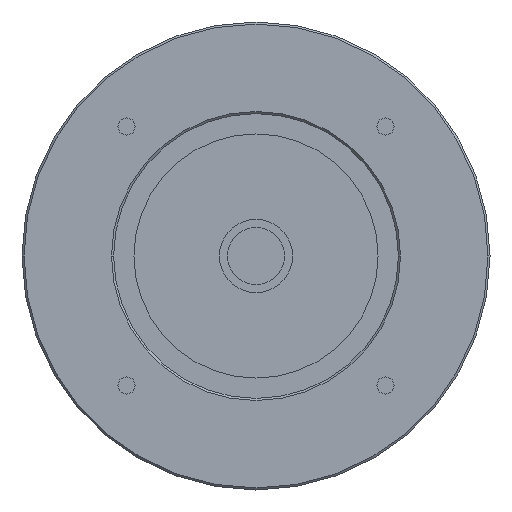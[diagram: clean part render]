
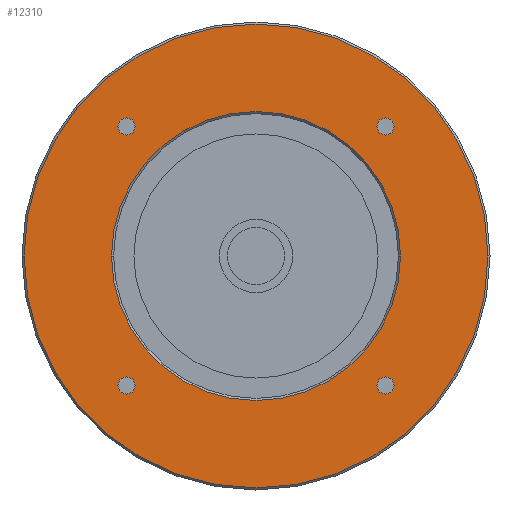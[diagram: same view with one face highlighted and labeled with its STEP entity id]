
A CAD part, left-side view. The second image highlights one B-rep face of the part: STEP entity #12310.
In plain terms, the highlighted planar face has unit normal (-1, 0, 0) as drawn and (0, 0, -1) by its records, which use the part's own axes.
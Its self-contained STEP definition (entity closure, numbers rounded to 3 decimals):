
#8820=CARTESIAN_POINT('',(31.82,-29.72,-45.));
#8830=VERTEX_POINT('',#8820);
#8880=CARTESIAN_POINT('',(31.82,-31.82,-45.));
#8890=DIRECTION('',(0.,0.,-1.));
#8900=DIRECTION('',(1.,0.,0.));
#8910=AXIS2_PLACEMENT_3D('',#8880,#8890,#8900);
#8920=CIRCLE('',#8910,2.1);
#8930=CARTESIAN_POINT('',(31.82,-33.92,-45.));
#8940=VERTEX_POINT('',#8930);
#8950=EDGE_CURVE('',#8940,#8830,#8920,.T.);
#9240=CARTESIAN_POINT('',(31.82,33.92,-45.));
#9250=VERTEX_POINT('',#9240);
#9300=CARTESIAN_POINT('',(31.82,31.82,-45.));
#9310=DIRECTION('',(0.,0.,-1.));
#9320=DIRECTION('',(1.,0.,0.));
#9330=AXIS2_PLACEMENT_3D('',#9300,#9310,#9320);
#9340=CIRCLE('',#9330,2.1);
#9350=CARTESIAN_POINT('',(31.82,29.72,-45.));
#9360=VERTEX_POINT('',#9350);
#9370=EDGE_CURVE('',#9360,#9250,#9340,.T.);
#11140=CARTESIAN_POINT('',(57.,0.,-45.));
#11150=VERTEX_POINT('',#11140);
#11180=CARTESIAN_POINT('',(0.,0.,
-45.));
#11190=DIRECTION('',(0.,0.,-1.));
#11200=DIRECTION('',(0.,-1.,0.));
#11210=AXIS2_PLACEMENT_3D('',#11180,#11190,#11200);
#11220=CIRCLE('',#11210,57.);
#11230=CARTESIAN_POINT('',(0.,-57.,-45.));
#11240=VERTEX_POINT('',#11230);
#11250=EDGE_CURVE('',#11150,#11240,#11220,.T.);
#11270=CARTESIAN_POINT('',(-57.,0.,-45.));
#11280=VERTEX_POINT('',#11270);
#11290=EDGE_CURVE('',#11240,#11280,#11220,.T.);
#11450=CARTESIAN_POINT('',(0.,0.,
-45.));
#11460=DIRECTION('',(0.,0.,-1.));
#11470=DIRECTION('',(0.,-1.,0.));
#11480=AXIS2_PLACEMENT_3D('',#11450,#11460,#11470);
#11490=PLANE('',#11480);
#11500=EDGE_CURVE('',#11280,#11150,#11220,.T.);
#11510=ORIENTED_EDGE('',*,*,#11500,.T.);
#11520=ORIENTED_EDGE('',*,*,#11290,.T.);
#11530=ORIENTED_EDGE('',*,*,#11250,.T.);
#11540=EDGE_LOOP('',(#11530,#11520,#11510));
#11550=FACE_OUTER_BOUND('',#11540,.T.);
#11560=CARTESIAN_POINT('',(0.,0.,
-45.));
#11570=DIRECTION('',(0.,0.,-1.));
#11580=DIRECTION('',(0.,-1.,0.));
#11590=AXIS2_PLACEMENT_3D('',#11560,#11570,#11580);
#11600=CIRCLE('',#11590,35.5);
#11610=CARTESIAN_POINT('',(0.,-35.5,-45.));
#11620=VERTEX_POINT('',#11610);
#11630=CARTESIAN_POINT('',(-35.5,0.,-45.));
#11640=VERTEX_POINT('',#11630);
#11650=EDGE_CURVE('',#11620,#11640,#11600,.T.);
#11660=ORIENTED_EDGE('',*,*,#11650,.F.);
#11670=CARTESIAN_POINT('',(35.5,0.,-45.));
#11680=VERTEX_POINT('',#11670);
#11690=EDGE_CURVE('',#11640,#11680,#11600,.T.);
#11700=ORIENTED_EDGE('',*,*,#11690,.F.);
#11710=EDGE_CURVE('',#11680,#11620,#11600,.T.);
#11720=ORIENTED_EDGE('',*,*,#11710,.F.);
#11730=EDGE_LOOP('',(#11720,#11700,#11660));
#11740=FACE_BOUND('',#11730,.T.);
#11750=CARTESIAN_POINT('',(-31.82,-31.82,-45.));
#11760=DIRECTION('',(0.,0.,-1.));
#11770=DIRECTION('',(1.,0.,0.));
#11780=AXIS2_PLACEMENT_3D('',#11750,#11760,#11770);
#11790=CIRCLE('',#11780,2.1);
#11800=CARTESIAN_POINT('',(-29.72,-31.82,-45.));
#11810=VERTEX_POINT('',#11800);
#11820=CARTESIAN_POINT('',(-31.82,-33.92,-45.));
#11830=VERTEX_POINT('',#11820);
#11840=EDGE_CURVE('',#11810,#11830,#11790,.T.);
#11850=ORIENTED_EDGE('',*,*,#11840,.F.);
#11860=CARTESIAN_POINT('',(-31.82,-29.72,-45.));
#11870=VERTEX_POINT('',#11860);
#11880=EDGE_CURVE('',#11830,#11870,#11790,.T.);
#11890=ORIENTED_EDGE('',*,*,#11880,.F.);
#11900=EDGE_CURVE('',#11870,#11810,#11790,.T.);
#11910=ORIENTED_EDGE('',*,*,#11900,.F.);
#11920=EDGE_LOOP('',(#11910,#11890,#11850));
#11930=FACE_BOUND('',#11920,.T.);
#11940=CARTESIAN_POINT('',(-31.82,31.82,-45.));
#11950=DIRECTION('',(0.,0.,-1.));
#11960=DIRECTION('',(1.,0.,0.));
#11970=AXIS2_PLACEMENT_3D('',#11940,#11950,#11960);
#11980=CIRCLE('',#11970,2.1);
#11990=CARTESIAN_POINT('',(-29.72,31.82,-45.));
#12000=VERTEX_POINT('',#11990);
#12010=CARTESIAN_POINT('',(-31.82,29.72,-45.));
#12020=VERTEX_POINT('',#12010);
#12030=EDGE_CURVE('',#12000,#12020,#11980,.T.);
#12040=ORIENTED_EDGE('',*,*,#12030,.F.);
#12050=CARTESIAN_POINT('',(-31.82,33.92,-45.));
#12060=VERTEX_POINT('',#12050);
#12070=EDGE_CURVE('',#12020,#12060,#11980,.T.);
#12080=ORIENTED_EDGE('',*,*,#12070,.F.);
#12090=EDGE_CURVE('',#12060,#12000,#11980,.T.);
#12100=ORIENTED_EDGE('',*,*,#12090,.F.);
#12110=EDGE_LOOP('',(#12100,#12080,#12040));
#12120=FACE_BOUND('',#12110,.T.);
#12130=CARTESIAN_POINT('',(33.92,31.82,-45.));
#12140=VERTEX_POINT('',#12130);
#12150=EDGE_CURVE('',#12140,#9360,#9340,.T.);
#12160=ORIENTED_EDGE('',*,*,#12150,.F.);
#12170=ORIENTED_EDGE('',*,*,#9370,.F.);
#12180=EDGE_CURVE('',#9250,#12140,#9340,.T.);
#12190=ORIENTED_EDGE('',*,*,#12180,.F.);
#12200=EDGE_LOOP('',(#12190,#12170,#12160));
#12210=FACE_BOUND('',#12200,.T.);
#12220=CARTESIAN_POINT('',(33.92,-31.82,-45.));
#12230=VERTEX_POINT('',#12220);
#12240=EDGE_CURVE('',#12230,#8940,#8920,.T.);
#12250=ORIENTED_EDGE('',*,*,#12240,.F.);
#12260=ORIENTED_EDGE('',*,*,#8950,.F.);
#12270=EDGE_CURVE('',#8830,#12230,#8920,.T.);
#12280=ORIENTED_EDGE('',*,*,#12270,.F.);
#12290=EDGE_LOOP('',(#12280,#12260,#12250));
#12300=FACE_BOUND('',#12290,.T.);
#12310=ADVANCED_FACE('',(#11550,#11740,#11930,#12120,#12210,#12300),
#11490,.T.);
